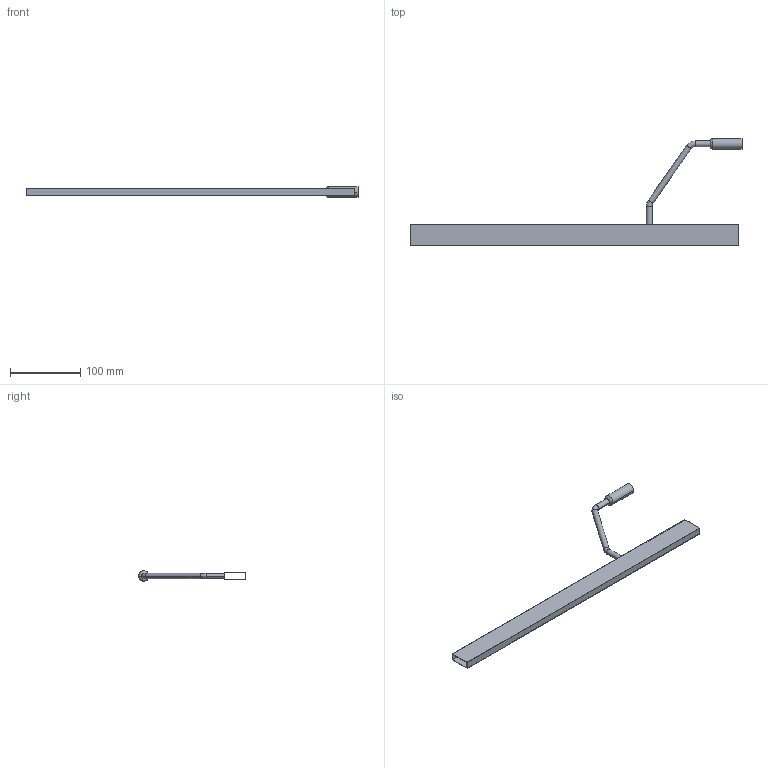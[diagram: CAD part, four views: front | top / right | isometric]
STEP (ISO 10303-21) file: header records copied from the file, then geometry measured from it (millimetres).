
FILE_DESCRIPTION (( 'STEP AP214' ), '1' );
FILE_NAME ('_DWD XP Rechteckreling mit Frontabstützung NL500.step', '2010-07-14T13:27:17', ( 'grass' ), ( '' ), 'SwSTEP 2.0', 'SolidWorks 2010', '' );
FILE_SCHEMA (( 'AUTOMOTIVE_DESIGN' ));
Length unit declared in the file: millimetre
Products named in the file (1): _DWD XP Rechteckreling mit Frontabstützung NL500
Bounding box: 471.6 x 151.9 x 15 mm (x, y, z)
Volume: 37918.7 mm3; surface area: 79830.6 mm2
Topology: 1 solids, 1 shells, 25 faces, 54 edges, 32 vertices
Faces by surface type: plane 11, cylinder 8, torus 6
Entity records: 712 total; most frequent: DIRECTION 128, CARTESIAN_POINT 112, ORIENTED_EDGE 108, EDGE_CURVE 54, AXIS2_PLACEMENT_3D 48, VERTEX_POINT 32, VECTOR 32, LINE 32
